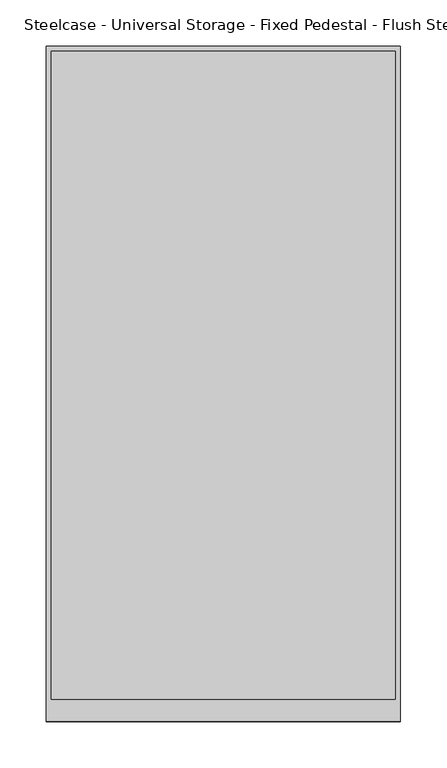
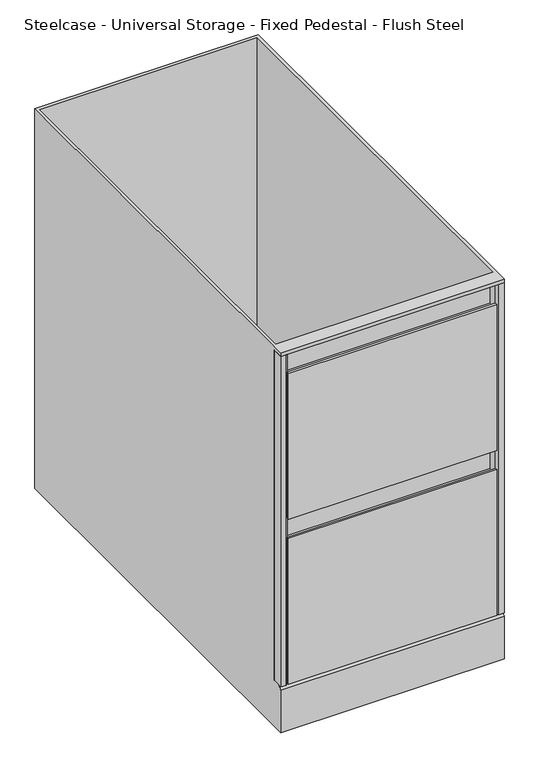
"""IFC4 building model written with IfcOpenShell, lengths in millimetres: furniture geometry, Steelcase - Universal Storage - Fixed Pedestal - Flush Steel : 2 File - 27H x 28 5/8D."""

from ifc_helpers import new_model, si_unit, frame, origin, place, context, project, spatial, polyline, outline, extrude, faceted_brep, source, transform, mapped, element, save


def steelcase_universal_storage_fixed_pedestal_flush_steel_a5d31b7a(model_context):
    return source(origin(), model_context, "Body", "SolidModel", [
        extrude(outline(polyline([(368.3000121, 0.0), (12.7000004, 0.0), (12.7000004, 3.1750001), (368.3000121, 3.1750001), (368.3000121, 0.0)])), frame((0.0, 0.0, 381.0000363), z_axis=(0.0, 0.0, 1.0), x_axis=(1.0, 0.0, 0.0)), (0.0, 0.0, 1.0), 263.5249394),
        extrude(outline(polyline([(368.3000121, 3.1750001), (12.7000004, 3.1750001), (12.7000004, 19.0495469), (368.3000121, 19.0495469), (368.3000121, 3.1750001)])), frame((0.0, 0.0, 82.550003), z_axis=(0.0, 0.0, 1.0), x_axis=(1.0, 0.0, 0.0)), (0.0, 0.0, 1.0), 254.000003),
        extrude(outline(polyline([(368.3000121, 3.1750001), (12.7000004, 3.1750001), (12.7000004, 19.0495469), (368.3000121, 19.0495469), (368.3000121, 3.1750001)])), frame((0.0, 0.0, 381.0000363), z_axis=(0.0, 0.0, 1.0), x_axis=(1.0, 0.0, 0.0)), (0.0, 0.0, 1.0), 139.8269637),
        extrude(outline(polyline([(368.3000121, 3.1750001), (12.7000004, 3.1750001), (12.7000004, 19.0495469), (368.3000121, 19.0495469), (368.3000121, 3.1750001)])), frame((0.0, 0.0, 530.2250121), z_axis=(0.0, 0.0, 1.0), x_axis=(1.0, 0.0, 0.0)), (0.0, 0.0, 1.0), 104.7749637),
        extrude(outline(polyline([(368.3000121, 0.0), (12.7000004, 0.0), (12.7000004, 3.1750001), (368.3000121, 3.1750001), (368.3000121, 0.0)])), frame((0.0, 0.0, 82.550003), z_axis=(0.0, 0.0, 1.0), x_axis=(1.0, 0.0, 0.0)), (0.0, 0.0, 1.0), 263.5249849),
        faceted_brep([(381.0, 0.0, 679.4500242), (381.0, 19.0495469, 679.4500242), (381.0, 19.0495469, 82.550003), (381.0, 6.350003, 82.550003), (381.0, 0.0, 76.2), (381.0, 0.0, 0.0), (381.0, 727.202, 0.0), (381.0, 727.202, 685.8), (381.0, 0.0, 685.8), (0.0, 0.0, 679.4500242), (0.0, 0.0, 685.8), (0.0, 727.202, 685.8), (0.0, 727.202, 0.0), (0.0, 0.0, 0.0), (0.0, 0.0, 76.2), (0.0, 6.350003, 82.550003), (0.0, 19.0495469, 82.550003), (0.0, 19.0495469, 679.4500242), (5.08, 722.122, 685.8), (375.92, 722.122, 685.8), (375.92, 24.1295469, 685.8), (5.08, 24.1295469, 685.8), (375.92, 722.122, 82.550003), (5.08, 722.122, 82.550003), (5.08, 24.1295469, 82.550003), (375.92, 24.1295469, 82.550003)], [[[0, 1, 2, 3, 4, 5, 6, 7, 8]], [[9, 10, 11, 12, 13, 14, 15, 16, 17]], [[1, 0, 9, 17]], [[2, 1, 17, 16]], [[2, 16, 15, 3]], [[13, 5, 4, 14]], [[6, 5, 13, 12]], [[7, 6, 12, 11]], [[8, 7, 11, 10], [18, 19, 20, 21]], [[0, 8, 10, 9]], [[4, 3, 15, 14]], [[22, 23, 24, 25]], [[23, 22, 19, 18]], [[24, 23, 18, 21]], [[25, 24, 21, 20]], [[22, 25, 20, 19]]]),
        extrude(outline(polyline([(12.7000004, 19.0495469), (12.7000004, 3.1750001), (9.5250003, 0.0), (0.0, 0.0), (0.0, 19.0495469), (12.7000004, 19.0495469)])), frame((0.0, 0.0, 82.550003), z_axis=(0.0, 0.0, 1.0), x_axis=(1.0, 0.0, 0.0)), (0.0, 0.0, 1.0), 596.9000212),
        extrude(outline(polyline([(381.0000125, 19.0495469), (381.0000125, 0.0), (371.4750122, 0.0), (368.3000121, 3.1750001), (368.3000121, 19.0495469), (381.0000125, 19.0495469)])), frame((0.0, 0.0, 82.550003), z_axis=(0.0, 0.0, 1.0), x_axis=(1.0, 0.0, 0.0)), (0.0, 0.0, 1.0), 596.9000212),
    ])


if __name__ == "__main__":
    model = new_model("IFC4")
    model_context = context("Model", 3, world=origin())
    ifc_project = project(units=[si_unit("LENGTHUNIT", "METRE", prefix="MILLI")], contexts=[model_context])
    site = spatial("IfcSite", under=ifc_project)
    building = spatial("IfcBuilding", under=site)
    placement = place(None, origin())
    steelcase_universal_storage_fixed_pedestal_flush_steel_shape = steelcase_universal_storage_fixed_pedestal_flush_steel_a5d31b7a(model_context)
    element("IfcFurniture", 1, ObjectType="Steelcase - Universal Storage - Fixed Pedestal - Flush Steel : 2 File - 27H x 28 5/8D", at=placement, inside=building, context=model_context, shape_type="MappedRepresentation", body=[
        mapped(steelcase_universal_storage_fixed_pedestal_flush_steel_shape, transform((0.0, 0.0, 0.0), x_axis=(1.0, 0.0, 0.0), y_axis=(0.0, 1.0, 0.0), z_axis=(0.0, 0.0, 1.0))),
    ])
    save(model, "model.ifc")
